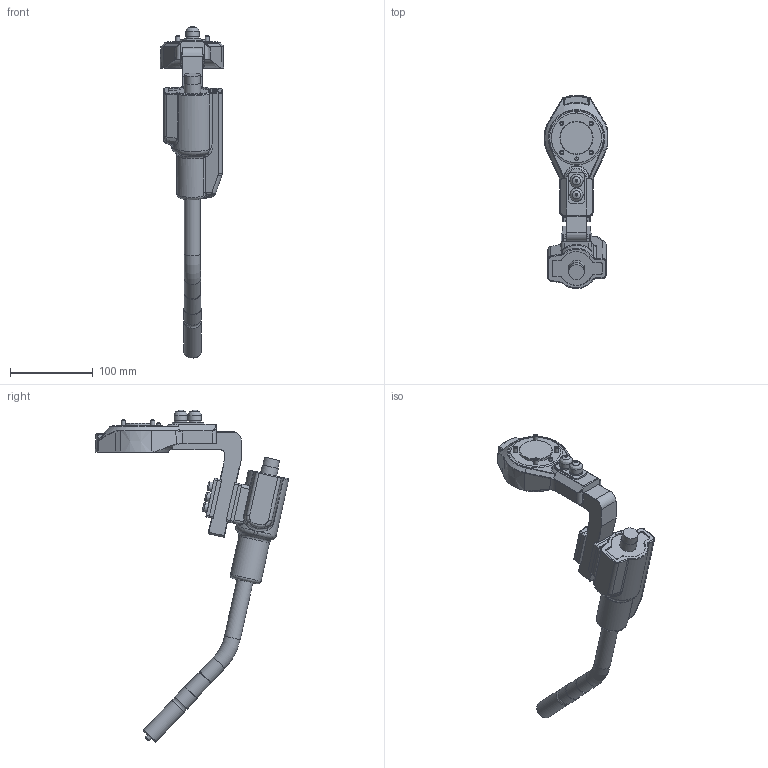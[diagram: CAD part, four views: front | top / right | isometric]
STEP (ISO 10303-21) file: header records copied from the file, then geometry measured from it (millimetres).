
FILE_DESCRIPTION((''),'2;1');
FILE_NAME('\\Domain2\3dcad_data\機械本体\TAWERS2\ミドルレンジ\TL-1800\付帯機器\トーチ\中実\[STEP]WSATU00001ZZ.stp','2014-03-27T19:31:20',('4032225'),(''),'Autodesk Inventor 2013','Autodesk Inventor 2013','');
FILE_SCHEMA(('AUTOMOTIVE_DESIGN { 1 0 10303 214 1 1 1 1 }'));
Length unit declared in the file: millimetre
Products named in the file (1): WSATU00001ZZ_中実
Bounding box: 77.14 x 233.67 x 401.52 mm (x, y, z)
Volume: 612641.6 mm3; surface area: 103595.7 mm2
Topology: 1 solids, 1 shells, 511 faces, 1235 edges, 733 vertices
Faces by surface type: plane 179, cylinder 131, bspline 98, torus 60, cone 32, sphere 11
Full cylindrical faces by diameter (mm): 4 x1, 5 x4, 8 x2, 9 x1, 10 x1, 11 x7, 14 x1, 16 x3, 18.5 x1, 19.5 x2, 19.8 x1, 20 x1, 21 x2, 28 x1, 40 x1
Entity records: 17068 total; most frequent: CARTESIAN_POINT 5592, ORIENTED_EDGE 2240, DIRECTION 2203, EDGE_CURVE 1120, AXIS2_PLACEMENT_3D 882, VERTEX_POINT 707, EDGE_LOOP 607, FACE_OUTER_BOUND 509
